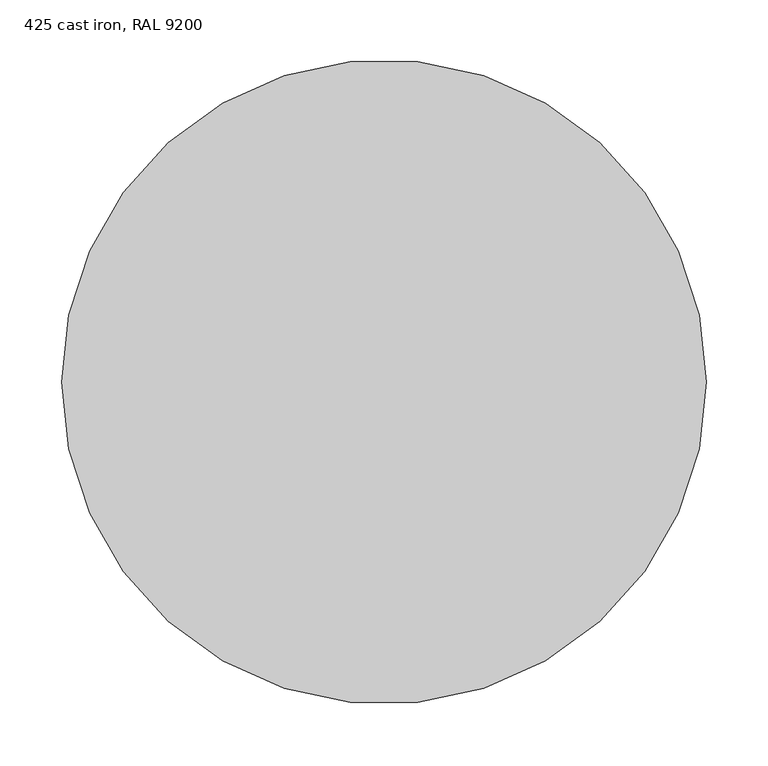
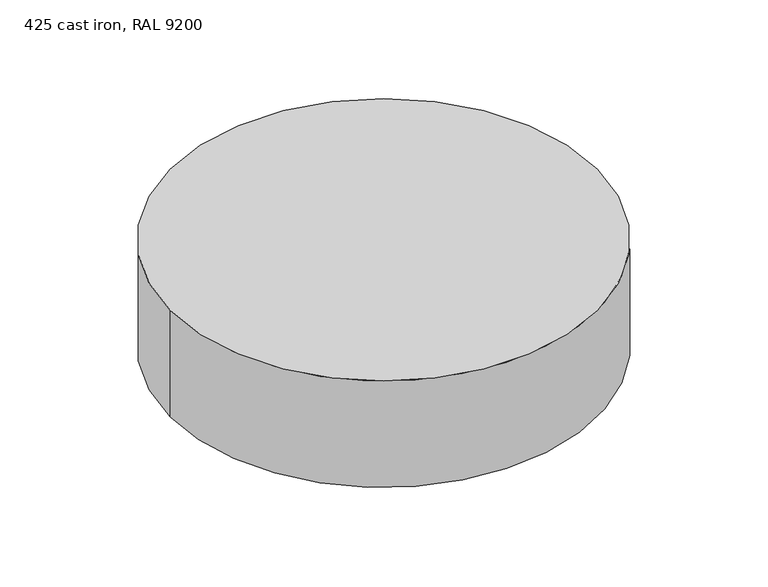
"""IFC4 building model written with IfcOpenShell, lengths in millimetres: pipe fitting geometry, Z_PIF_UN_Aquacell_NG_Round_Cover_Wavin_(nested) : 425 cast iron, RAL 9200."""

from ifc_helpers import new_model, si_unit, point, frame, origin, origin_2d, place, context, project, spatial, circle_curve, trimmed, segment, composite_curve, outline, extrude, source, transform, mapped, element, save


def pipe_fitting_425_cast_iron_ral_9200_c55d621d(model_context):
    return source(origin(), model_context, "Body", "SweptSolid", [
        extrude(outline(composite_curve([segment(trimmed(circle_curve(origin_2d(), 260.0), [point((-260.0, 0.0))], [point((260.0, 0.0))], False, "CARTESIAN"), True, "CONTINUOUS"), segment(trimmed(circle_curve(origin_2d(), 260.0), [point((260.0, 0.0))], [point((-260.0, 0.0))], False, "CARTESIAN"), True, "CONTINUOUS")], self_intersect=False)), frame((0.0, 0.0, -137.0), z_axis=(0.0, 0.0, 1.0), x_axis=(1.0, 0.0, 0.0)), (0.0, 0.0, 1.0), 137.0),
    ])


if __name__ == "__main__":
    model = new_model("IFC4")
    model_context = context("Model", 3, world=origin())
    ifc_project = project(units=[si_unit("LENGTHUNIT", "METRE", prefix="MILLI")], contexts=[model_context])
    site = spatial("IfcSite", under=ifc_project)
    building = spatial("IfcBuilding", under=site)
    placement = place(None, origin())
    pipe_fitting_425_cast_iron_ral_9200_shape = pipe_fitting_425_cast_iron_ral_9200_c55d621d(model_context)
    element("IfcPipeFitting", 1, ObjectType="Z_PIF_UN_Aquacell_NG_Round_Cover_Wavin_(nested) : 425 cast iron, RAL 9200", at=placement, inside=building, context=model_context, shape_type="MappedRepresentation", body=[
        mapped(pipe_fitting_425_cast_iron_ral_9200_shape, transform((0.0, 0.0, 0.0), x_axis=(1.0, 0.0, 0.0), y_axis=(0.0, 1.0, 0.0), z_axis=(0.0, 0.0, 1.0))),
    ])
    save(model, "model.ifc")
